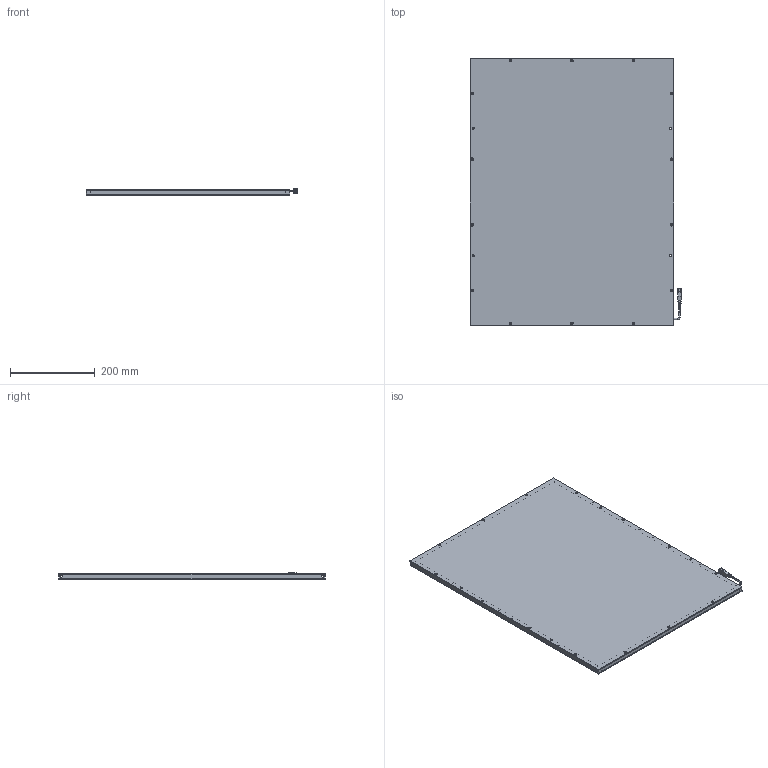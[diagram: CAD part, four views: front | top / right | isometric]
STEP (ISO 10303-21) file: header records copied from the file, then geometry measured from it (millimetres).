
FILE_DESCRIPTION (( 'STEP AP203' ), '1' );
FILE_NAME ('CRT-FLC590440-¼òÒ×3DÍ¼.STEP', '2021-11-29T03:36:44', ( 'Admin' ), ( '' ), 'SwSTEP 2.0', 'SolidWorks 2018', '' );
FILE_SCHEMA (( 'CONFIG_CONTROL_DESIGN' ));
Length unit declared in the file: millimetre
Products named in the file (1): CRT-FLC590440-潠眢3D芞
Bounding box: 499.45 x 630 x 14.85 mm (x, y, z)
Surface area: 690270 mm2 (no closed solid volume)
Topology: 0 solids, 17 shells, 254 faces, 861 edges, 615 vertices
Faces by surface type: plane 113, cylinder 108, cone 30, bspline 2, torus 1
Entity records: 9727 total; most frequent: CARTESIAN_POINT 2162, DIRECTION 1622, ORIENTED_EDGE 1305, EDGE_CURVE 861, VERTEX_POINT 615, AXIS2_PLACEMENT_3D 550, VECTOR 522, LINE 522
